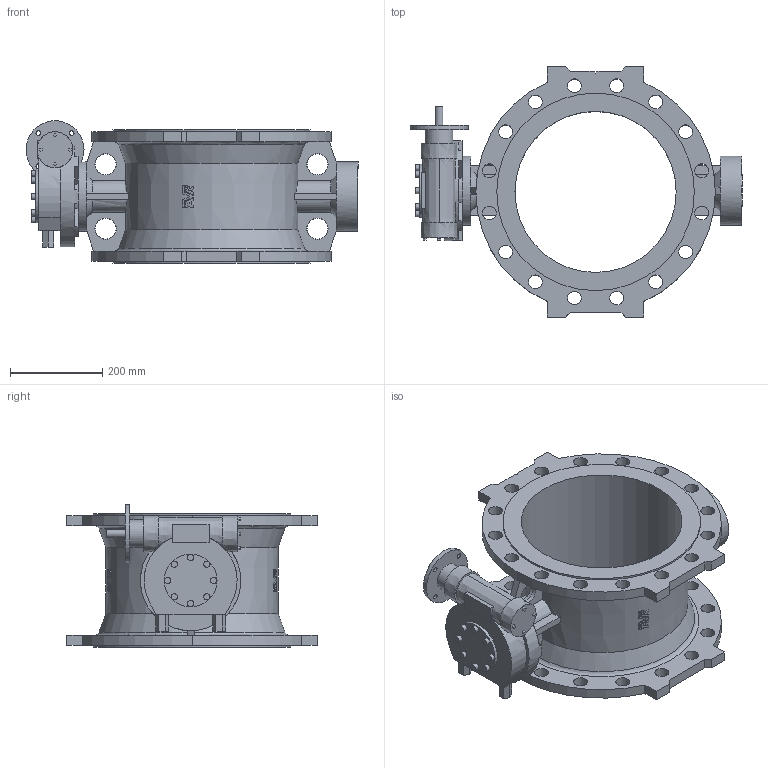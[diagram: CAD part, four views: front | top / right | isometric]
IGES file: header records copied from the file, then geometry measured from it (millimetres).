
Start section: SolidWorks IGES file using analytic representation for surfaces
Global section: file name: \\avksan2\techshare\PBM outline export from Enovia\O_756_102_DN350_1XX_AA0_igs.igs; native system: SolidWorks 2012; preprocessor: SolidWorks 2012; author: pbm; date: 160309.115311; units: millimetre
Bounding box: 721 x 544 x 309.6 mm (x, y, z)
Surface area: 1485000.9 mm2 (no closed solid volume)
Topology: 0 solids, 0 shells, 432 faces, 3320 edges, 3207 vertices
Faces by surface type: bspline 317, revolution 115
